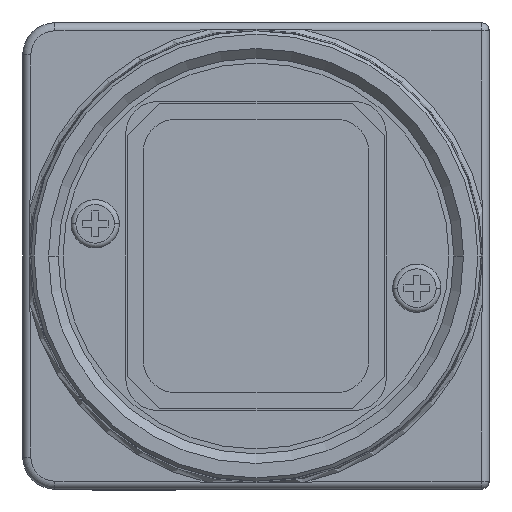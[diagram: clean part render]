
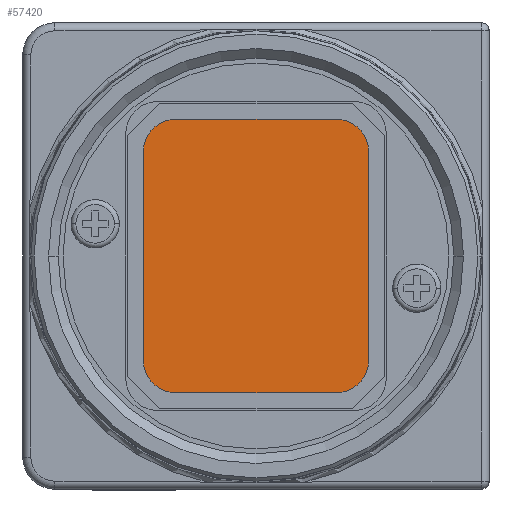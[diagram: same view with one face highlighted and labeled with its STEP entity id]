
A CAD part, left-side view. The second image highlights one B-rep face of the part: STEP entity #57420.
In plain terms, the highlighted planar face has unit normal (-1, 0, 0).
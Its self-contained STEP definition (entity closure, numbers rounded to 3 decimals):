
#7794=DIRECTION('',(0.,0.,-1.));
#7795=VECTOR('',#7794,13.);
#7796=CARTESIAN_POINT('',(19.536,40.19,6.5));
#7797=LINE('',#7796,#7795);
#7798=CARTESIAN_POINT('',(19.536,42.19,-6.5));
#7799=DIRECTION('',(1.,0.,0.));
#7800=DIRECTION('',(0.,-1.,0.));
#7801=AXIS2_PLACEMENT_3D('',#7798,#7799,#7800);
#7803=DIRECTION('',(0.,1.,0.));
#7804=VECTOR('',#7803,10.);
#7805=CARTESIAN_POINT('',(19.536,42.19,-8.5));
#7806=LINE('',#7805,#7804);
#7807=CARTESIAN_POINT('',(19.536,52.19,-6.5));
#7808=DIRECTION('',(1.,0.,0.));
#7809=DIRECTION('',(0.,0.,-1.));
#7810=AXIS2_PLACEMENT_3D('',#7807,#7808,#7809);
#7812=DIRECTION('',(0.,0.,1.));
#7813=VECTOR('',#7812,13.);
#7814=CARTESIAN_POINT('',(19.536,54.19,-6.5));
#7815=LINE('',#7814,#7813);
#7816=CARTESIAN_POINT('',(19.536,52.19,6.5));
#7817=DIRECTION('',(1.,0.,0.));
#7818=DIRECTION('',(0.,1.,0.));
#7819=AXIS2_PLACEMENT_3D('',#7816,#7817,#7818);
#7821=DIRECTION('',(0.,-1.,0.));
#7822=VECTOR('',#7821,10.);
#7823=CARTESIAN_POINT('',(19.536,52.19,8.5));
#7824=LINE('',#7823,#7822);
#7825=CARTESIAN_POINT('',(19.536,42.19,6.5));
#7826=DIRECTION('',(1.,0.,0.));
#7827=DIRECTION('',(0.,0.,1.));
#7828=AXIS2_PLACEMENT_3D('',#7825,#7826,#7827);
#40320=CARTESIAN_POINT('',(19.536,40.19,6.5));
#40321=VERTEX_POINT('',#40320);
#40322=CARTESIAN_POINT('',(19.536,40.19,-6.5));
#40323=VERTEX_POINT('',#40322);
#40324=CARTESIAN_POINT('',(19.536,42.19,8.5));
#40325=VERTEX_POINT('',#40324);
#40326=CARTESIAN_POINT('',(19.536,42.19,-8.5));
#40327=VERTEX_POINT('',#40326);
#40328=CARTESIAN_POINT('',(19.536,52.19,-8.5));
#40329=VERTEX_POINT('',#40328);
#40330=CARTESIAN_POINT('',(19.536,54.19,-6.5));
#40331=VERTEX_POINT('',#40330);
#40332=CARTESIAN_POINT('',(19.536,54.19,6.5));
#40333=VERTEX_POINT('',#40332);
#40334=CARTESIAN_POINT('',(19.536,52.19,8.5));
#40335=VERTEX_POINT('',#40334);
#57399=CARTESIAN_POINT('',(19.536,52.065,0.));
#57400=DIRECTION('',(1.,0.,0.));
#57401=DIRECTION('',(0.,-1.,0.));
#57402=AXIS2_PLACEMENT_3D('',#57399,#57400,#57401);
#57403=PLANE('',#57402);
#57404=ORIENTED_EDGE('',*,*,#57380,.T.);
#57406=ORIENTED_EDGE('',*,*,#57405,.T.);
#57408=ORIENTED_EDGE('',*,*,#57407,.T.);
#57410=ORIENTED_EDGE('',*,*,#57409,.T.);
#57412=ORIENTED_EDGE('',*,*,#57411,.T.);
#57414=ORIENTED_EDGE('',*,*,#57413,.T.);
#57416=ORIENTED_EDGE('',*,*,#57415,.T.);
#57417=ORIENTED_EDGE('',*,*,#57391,.T.);
#57418=EDGE_LOOP('',(#57404,#57406,#57408,#57410,#57412,#57414,#57416,#57417));
#57419=FACE_OUTER_BOUND('',#57418,.F.);
#57420=ADVANCED_FACE('',(#57419),#57403,.F.);
#7802=CIRCLE('',#7801,2.);
#7811=CIRCLE('',#7810,2.);
#7820=CIRCLE('',#7819,2.);
#7829=CIRCLE('',#7828,2.);
#57380=EDGE_CURVE('',#40321,#40323,#7797,.T.);
#57391=EDGE_CURVE('',#40325,#40321,#7829,.T.);
#57405=EDGE_CURVE('',#40323,#40327,#7802,.T.);
#57407=EDGE_CURVE('',#40327,#40329,#7806,.T.);
#57409=EDGE_CURVE('',#40329,#40331,#7811,.T.);
#57411=EDGE_CURVE('',#40331,#40333,#7815,.T.);
#57413=EDGE_CURVE('',#40333,#40335,#7820,.T.);
#57415=EDGE_CURVE('',#40335,#40325,#7824,.T.);
